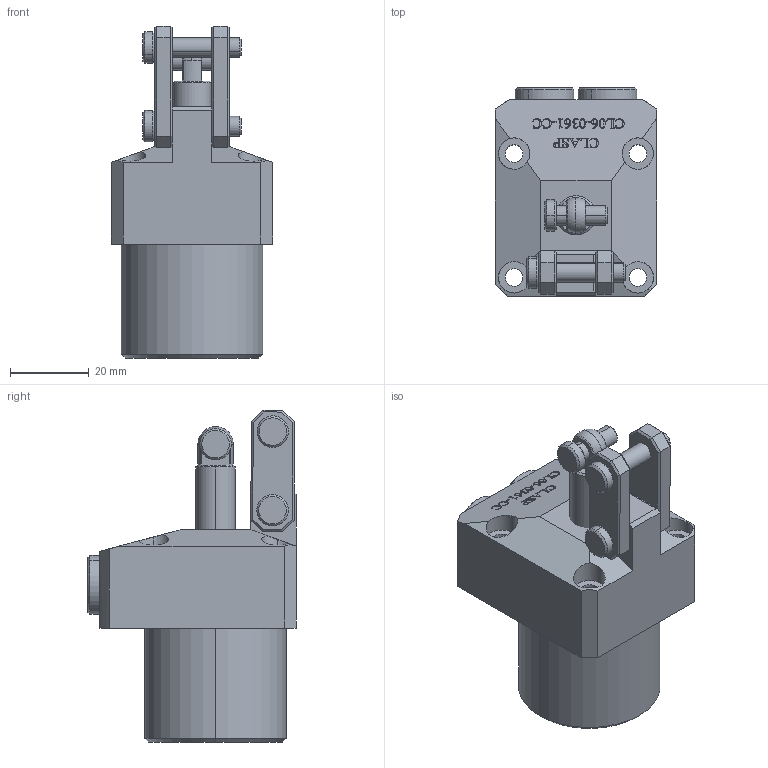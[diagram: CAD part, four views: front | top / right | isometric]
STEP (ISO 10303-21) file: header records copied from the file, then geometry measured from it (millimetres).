
FILE_DESCRIPTION (( 'STEP AP203' ), '1' );
FILE_NAME ('CL.06_0360CC.STEP', '2022-07-05T17:17:06', ( '' ), ( '' ), 'SwSTEP 2.0', 'SolidWorks 2017', '' );
FILE_SCHEMA (( 'CONFIG_CONTROL_DESIGN' ));
Length unit declared in the file: millimetre
Products named in the file (7): CL06.-0360 CC Plug  _8; CL.06_0360CC; CL06.-0360 CC Body; CL06.-0360 CC piston _1; CL06.-0360 CC Link -3; CL06.-0360 CC Link pin_4; CL06.-0360 CC Link pin_5
Assembly tree (9 placements, depth 2):
  CL.06_0360CC
    CL06.-0360 CC Body
    CL06.-0360 CC piston _1
    CL06.-0360 CC Link -3  x2
    CL06.-0360 CC Link pin_4  x2
    CL06.-0360 CC Link pin_5
    CL06.-0360 CC Plug  _8  x2
Bounding box: 41 x 53 x 84.51 mm (x, y, z)
Volume: 80775.6 mm3; surface area: 19733.9 mm2
Topology: 9 solids, 9 shells, 524 faces, 1342 edges, 869 vertices
Faces by surface type: plane 236, bspline 185, cylinder 69, cone 32, sphere 2
Entity records: 23111 total; most frequent: CARTESIAN_POINT 11996, ORIENTED_EDGE 2436, DIRECTION 1552, EDGE_CURVE 1218, VERTEX_POINT 797, LINE 694, VECTOR 694, EDGE_LOOP 519
